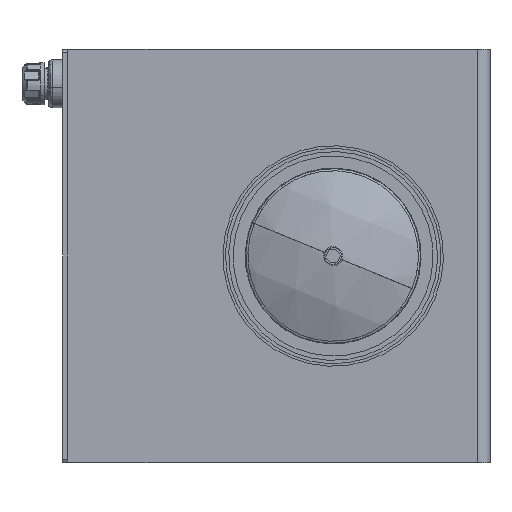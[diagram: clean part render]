
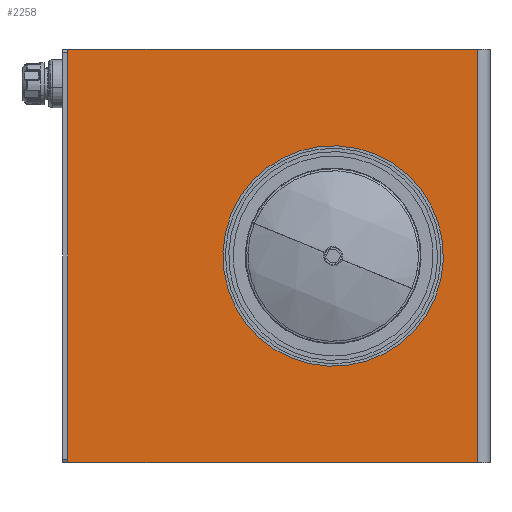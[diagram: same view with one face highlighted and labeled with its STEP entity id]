
A CAD part, left-side view. The second image highlights one B-rep face of the part: STEP entity #2258.
In plain terms, the highlighted planar face has unit normal (-1, 0, 0).
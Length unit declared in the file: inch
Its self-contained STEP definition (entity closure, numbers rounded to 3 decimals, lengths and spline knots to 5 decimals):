
#92 = CARTESIAN_POINT ( 'NONE',  ( -36.17793, -12.08841, -0.95109 ) ) ;
#368 = CARTESIAN_POINT ( 'NONE',  ( -36.17793, -7.08841, 3.5835 ) ) ;
#492 = ORIENTED_EDGE ( 'NONE', *, *, #16140, .T. ) ;
#515 = VECTOR ( 'NONE', #11689, 39.37008 ) ;
#637 = AXIS2_PLACEMENT_3D ( 'NONE', #9897, #9830, #9558 ) ;
#769 = DIRECTION ( 'NONE',  ( 0., 0., 1. ) ) ;
#833 = CARTESIAN_POINT ( 'NONE',  ( -36.17793, -12.21841, 3.5835 ) ) ;
#1068 = LINE ( 'NONE', #2013, #13070 ) ;
#1816 = ORIENTED_EDGE ( 'NONE', *, *, #15379, .F. ) ;
#1957 = DIRECTION ( 'NONE',  ( 0., 0., 1. ) ) ;
#2013 = CARTESIAN_POINT ( 'NONE',  ( -36.17793, -18.46841, 18.5835 ) ) ;
#2063 = CARTESIAN_POINT ( 'NONE',  ( -36.17793, -7.08841, 10.3335 ) ) ;
#2258 = ADVANCED_FACE ( 'NONE', ( #13837, #9639 ), #14492, .F. ) ;
#2319 = CARTESIAN_POINT ( 'NONE',  ( -36.17793, -17.57741, -11.4165 ) ) ;
#2341 = LINE ( 'NONE', #15867, #18609 ) ;
#2588 = CARTESIAN_POINT ( 'NONE',  ( -36.17793, 12.16159, 18.5835 ) ) ;
#2775 = VERTEX_POINT ( 'NONE', #3167 ) ;
#2972 = CARTESIAN_POINT ( 'NONE',  ( -36.17793, -12.21841, 3.5835 ) ) ;
#3167 = CARTESIAN_POINT ( 'NONE',  ( -36.17793, 12.16159, -11.4165 ) ) ;
#3292 = VECTOR ( 'NONE', #7148, 39.37008 ) ;
#3560 = VERTEX_POINT ( 'NONE', #17722 ) ;
#3693 = CIRCLE ( 'NONE', #637, 6.75 ) ;
#4298 = ORIENTED_EDGE ( 'NONE', *, *, #18860, .T. ) ;
#4417 = AXIS2_PLACEMENT_3D ( 'NONE', #14744, #14455, #14154 ) ;
#4575 = DIRECTION ( 'NONE',  ( 0., 0., -1. ) ) ;
#6189 = VERTEX_POINT ( 'NONE', #92 ) ;
#6411 = LINE ( 'NONE', #17060, #10051 ) ;
#6930 = LINE ( 'NONE', #2972, #15757 ) ;
#7148 = DIRECTION ( 'NONE',  ( 0., 0.029, 1. ) ) ;
#7670 = VERTEX_POINT ( 'NONE', #14516 ) ;
#7721 = VERTEX_POINT ( 'NONE', #8409 ) ;
#8214 = EDGE_CURVE ( 'NONE', #18033, #6189, #3693, .T. ) ;
#8409 = CARTESIAN_POINT ( 'NONE',  ( -36.17793, -12.21841, 3.5835 ) ) ;
#8448 = AXIS2_PLACEMENT_3D ( 'NONE', #19643, #10163, #769 ) ;
#9192 = ORIENTED_EDGE ( 'NONE', *, *, #18294, .T. ) ;
#9274 = EDGE_CURVE ( 'NONE', #13298, #18033, #12559, .T. ) ;
#9558 = DIRECTION ( 'NONE',  ( 0., 0., 1. ) ) ;
#9639 = FACE_OUTER_BOUND ( 'NONE', #18545, .T. ) ;
#9658 = VERTEX_POINT ( 'NONE', #16546 ) ;
#9793 = AXIS2_PLACEMENT_3D ( 'NONE', #368, #11341, #1957 ) ;
#9830 = DIRECTION ( 'NONE',  ( -1., 0., 0. ) ) ;
#9897 = CARTESIAN_POINT ( 'NONE',  ( -36.17793, -7.08841, 3.5835 ) ) ;
#10051 = VECTOR ( 'NONE', #4575, 39.37008 ) ;
#10163 = DIRECTION ( 'NONE',  ( -1., 0., 0. ) ) ;
#10669 = DIRECTION ( 'NONE',  ( 0., -0.029, 1. ) ) ;
#10813 = ORIENTED_EDGE ( 'NONE', *, *, #17366, .T. ) ;
#11092 = ORIENTED_EDGE ( 'NONE', *, *, #17478, .F. ) ;
#11341 = DIRECTION ( 'NONE',  ( -1., 0., 0. ) ) ;
#11346 = VERTEX_POINT ( 'NONE', #2588 ) ;
#11689 = DIRECTION ( 'NONE',  ( 0., 0., 1. ) ) ;
#11734 = EDGE_LOOP ( 'NONE', ( #11092, #17281, #17793, #19783, #1816 ) ) ;
#12549 = LINE ( 'NONE', #2319, #515 ) ;
#12559 = CIRCLE ( 'NONE', #8448, 6.75 ) ;
#12908 = CIRCLE ( 'NONE', #9793, 6.75 ) ;
#12978 = DIRECTION ( 'NONE',  ( 0., 1., 0. ) ) ;
#13070 = VECTOR ( 'NONE', #12978, 39.37008 ) ;
#13298 = VERTEX_POINT ( 'NONE', #2063 ) ;
#13837 = FACE_BOUND ( 'NONE', #11734, .T. ) ;
#14060 = CARTESIAN_POINT ( 'NONE',  ( -36.17793, -7.08841, -3.1665 ) ) ;
#14154 = DIRECTION ( 'NONE',  ( 0., 0., -1. ) ) ;
#14455 = DIRECTION ( 'NONE',  ( 1., 0., 0. ) ) ;
#14492 = PLANE ( 'NONE',  #4417 ) ;
#14516 = CARTESIAN_POINT ( 'NONE',  ( -36.17793, -17.57741, 18.5835 ) ) ;
#14744 = CARTESIAN_POINT ( 'NONE',  ( -36.17793, 12.16159, -11.4165 ) ) ;
#15379 = EDGE_CURVE ( 'NONE', #9658, #13298, #12908, .T. ) ;
#15757 = VECTOR ( 'NONE', #10669, 39.37008 ) ;
#15867 = CARTESIAN_POINT ( 'NONE',  ( -36.17793, -18.46841, -11.4165 ) ) ;
#16140 = EDGE_CURVE ( 'NONE', #2775, #3560, #2341, .T. ) ;
#16290 = LINE ( 'NONE', #833, #3292 ) ;
#16546 = CARTESIAN_POINT ( 'NONE',  ( -36.17793, -12.08841, 8.11809 ) ) ;
#17060 = CARTESIAN_POINT ( 'NONE',  ( -36.17793, 12.16159, -11.4165 ) ) ;
#17281 = ORIENTED_EDGE ( 'NONE', *, *, #17975, .F. ) ;
#17366 = EDGE_CURVE ( 'NONE', #7670, #11346, #1068, .T. ) ;
#17478 = EDGE_CURVE ( 'NONE', #7721, #9658, #16290, .T. ) ;
#17479 = DIRECTION ( 'NONE',  ( 0., -1., 0. ) ) ;
#17722 = CARTESIAN_POINT ( 'NONE',  ( -36.17793, -17.57741, -11.4165 ) ) ;
#17793 = ORIENTED_EDGE ( 'NONE', *, *, #8214, .F. ) ;
#17975 = EDGE_CURVE ( 'NONE', #6189, #7721, #6930, .T. ) ;
#18033 = VERTEX_POINT ( 'NONE', #14060 ) ;
#18294 = EDGE_CURVE ( 'NONE', #3560, #7670, #12549, .T. ) ;
#18545 = EDGE_LOOP ( 'NONE', ( #9192, #10813, #4298, #492 ) ) ;
#18609 = VECTOR ( 'NONE', #17479, 39.37008 ) ;
#18860 = EDGE_CURVE ( 'NONE', #11346, #2775, #6411, .T. ) ;
#19643 = CARTESIAN_POINT ( 'NONE',  ( -36.17793, -7.08841, 3.5835 ) ) ;
#19783 = ORIENTED_EDGE ( 'NONE', *, *, #9274, .F. ) ;
